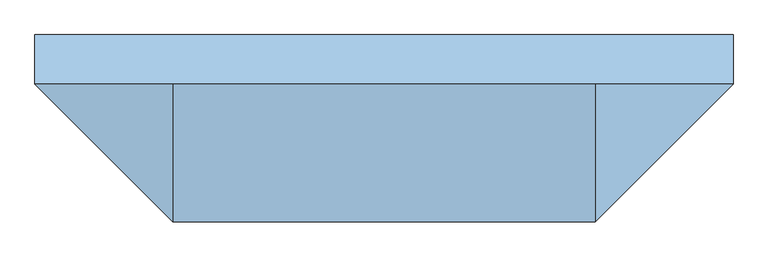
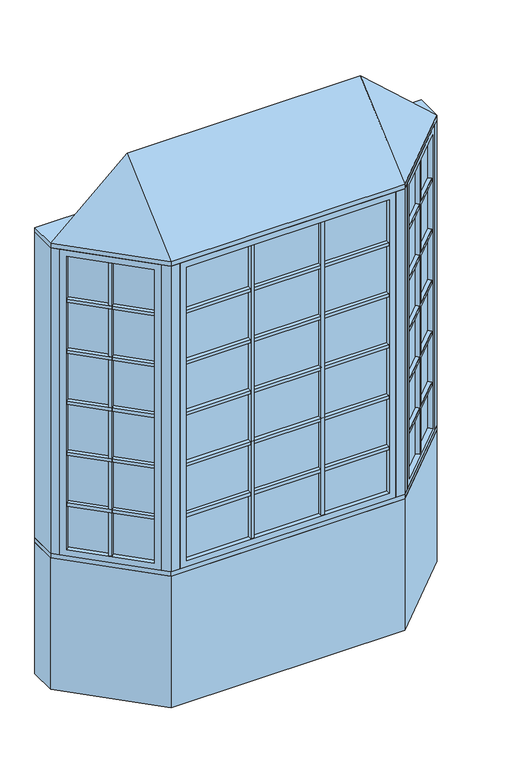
"""IFC4 building model written with IfcOpenShell, lengths in millimetres: window geometry, Pollard_Windows_Tudor Casement Bows and Bays : AML-BAY 45 AFR0618-10-500_GC."""

from ifc_helpers import new_model, si_unit, frame, origin, origin_with_axes, place, context, project, spatial, polyline, outline, extrude, faceted_brep, source, transform, mapped, element, save


def window_845785dd(model_context):
    return source(origin(), model_context, "Body", "SolidModel", [
        extrude(outline(polyline([(709.3614193, -437.1108753), (693.8050701, -421.5545261), (1001.616171, -113.7434252), (1017.1725202, -129.2997743), (709.3614193, -437.1108753)])), frame((0.0, 0.0, 1690.998), z_axis=(0.0, 0.0, 1.0), x_axis=(1.0, 0.0, 0.0)), (0.0, 0.0, 1.0), 18.0),
        extrude(outline(polyline([(690.2129677, -417.9624236), (674.6566185, -402.4060744), (982.4677194, -94.5949735), (998.0240686, -110.1513227), (690.2129677, -417.9624236)])), frame((0.0, 0.0, 1690.998), z_axis=(0.0, 0.0, 1.0), x_axis=(1.0, 0.0, 0.0)), (0.0, 0.0, 1.0), 18.0),
        extrude(outline(polyline([(709.3614193, -437.1108753), (693.8050701, -421.5545261), (1001.616171, -113.7434252), (1017.1725202, -129.2997743), (709.3614193, -437.1108753)])), frame((0.0, 0.0, 1090.998), z_axis=(0.0, 0.0, 1.0), x_axis=(1.0, 0.0, 0.0)), (0.0, 0.0, 1.0), 18.0),
        extrude(outline(polyline([(690.2129677, -417.9624236), (674.6566185, -402.4060744), (982.4677194, -94.5949735), (998.0240686, -110.1513227), (690.2129677, -417.9624236)])), frame((0.0, 0.0, 1090.998), z_axis=(0.0, 0.0, 1.0), x_axis=(1.0, 0.0, 0.0)), (0.0, 0.0, 1.0), 18.0),
        extrude(outline(polyline([(709.3614193, -437.1108753), (693.8050701, -421.5545261), (1001.616171, -113.7434252), (1017.1725202, -129.2997743), (709.3614193, -437.1108753)])), frame((0.0, 0.0, 1390.998), z_axis=(0.0, 0.0, 1.0), x_axis=(1.0, 0.0, 0.0)), (0.0, 0.0, 1.0), 18.0),
        extrude(outline(polyline([(690.2129677, -417.9624236), (674.6566185, -402.4060744), (982.4677194, -94.5949735), (998.0240686, -110.1513227), (690.2129677, -417.9624236)])), frame((0.0, 0.0, 1390.998), z_axis=(0.0, 0.0, 1.0), x_axis=(1.0, 0.0, 0.0)), (0.0, 0.0, 1.0), 18.0),
        extrude(outline(polyline([(709.3614193, -437.1108753), (693.8050701, -421.5545261), (1001.616171, -113.7434252), (1017.1725202, -129.2997743), (709.3614193, -437.1108753)])), frame((0.0, 0.0, 1990.998), z_axis=(0.0, 0.0, 1.0), x_axis=(1.0, 0.0, 0.0)), (0.0, 0.0, 1.0), 18.0),
        extrude(outline(polyline([(690.2129677, -417.9624236), (674.6566185, -402.4060744), (982.4677194, -94.5949735), (998.0240686, -110.1513227), (690.2129677, -417.9624236)])), frame((0.0, 0.0, 1990.998), z_axis=(0.0, 0.0, 1.0), x_axis=(1.0, 0.0, 0.0)), (0.0, 0.0, 1.0), 18.0),
        extrude(outline(polyline([(709.3614193, -437.1108753), (693.8050701, -421.5545261), (1001.616171, -113.7434252), (1017.1725202, -129.2997743), (709.3614193, -437.1108753)])), frame((0.0, 0.0, 2290.998), z_axis=(0.0, 0.0, 1.0), x_axis=(1.0, 0.0, 0.0)), (0.0, 0.0, 1.0), 18.0),
        extrude(outline(polyline([(690.2129677, -417.9624236), (674.6566185, -402.4060744), (982.4677194, -94.5949735), (998.0240686, -110.1513227), (690.2129677, -417.9624236)])), frame((0.0, 0.0, 2290.998), z_axis=(0.0, 0.0, 1.0), x_axis=(1.0, 0.0, 0.0)), (0.0, 0.0, 1.0), 18.0),
        extrude(outline(polyline([(854.0745816, -261.2850146), (869.6309308, -276.8413638), (856.9030087, -289.5692858), (841.3466595, -274.0129366), (854.0745816, -261.2850146)])), frame((0.0, 0.0, 835.8628), z_axis=(0.0, 0.0, 1.0), x_axis=(1.0, 0.0, 0.0)), (0.0, 0.0, 1.0), 1728.2704),
        extrude(outline(polyline([(850.4824791, -257.6929121), (837.7545571, -270.4208342), (822.1982079, -254.864485), (834.92613, -242.1365629), (850.4824791, -257.6929121)])), frame((0.0, 0.0, 835.8628), z_axis=(0.0, 0.0, 1.0), x_axis=(1.0, 0.0, 0.0)), (0.0, 0.0, 1.0), 1728.2704),
        extrude(outline(polyline([(1010.5964271, -104.763169), (684.824814, -430.5347822), (681.2327115, -426.9426797), (1007.0043247, -101.1710666), (1010.5964271, -104.763169)])), frame((0.0, 0.0, 823.1628), z_axis=(0.0, 0.0, 1.0), x_axis=(1.0, 0.0, 0.0)), (0.0, 0.0, 1.0), 1753.6704),
        faceted_brep([(1001.616171, -113.7434252, 835.8628), (1019.5766833, -131.7039374, 835.8628), (1019.5766833, -131.7039374, 2564.1332), (1001.616171, -113.7434252, 2564.1332), (1007.0043247, -101.1710666, 823.1628), (1010.5964271, -104.763169, 823.1628), (1010.5964271, -104.763169, 2576.8332), (1007.0043247, -101.1710666, 2576.8332), (980.0635563, -92.1908105, 835.8628), (998.0240686, -110.1513227, 835.8628), (998.0240686, -110.1513227, 2564.1332), (980.0635563, -92.1908105, 2564.1332), (1044.9369265, -106.3436941, 799.998), (1005.4237996, -66.8305672, 799.998), (1005.4237996, -66.8305672, 2599.998), (1044.9369265, -106.3436941, 2599.998), (711.7655823, -439.5150383, 2564.1332), (693.8050701, -421.5545261, 2564.1332), (684.824814, -430.5347822, 2576.8332), (681.2327115, -426.9426797, 2576.8332), (690.2129677, -417.9624236, 2564.1332), (672.2524554, -400.0019114, 2564.1332), (646.8922121, -425.3621547, 2599.998), (686.4053391, -464.8752816, 2599.998), (711.7655823, -439.5150383, 835.8628), (693.8050701, -421.5545261, 835.8628), (684.824814, -430.5347822, 823.1628), (681.2327115, -426.9426797, 823.1628), (690.2129677, -417.9624236, 835.8628), (672.2524554, -400.0019114, 835.8628), (646.8922121, -425.3621547, 799.998), (686.4053391, -464.8752816, 799.998)], [[[0, 1, 2, 3]], [[4, 5, 6, 7]], [[8, 9, 10, 11]], [[12, 13, 14, 15]], [[3, 2, 16, 17]], [[7, 6, 18, 19]], [[11, 10, 20, 21]], [[15, 14, 22, 23]], [[17, 16, 24, 25]], [[19, 18, 26, 27]], [[21, 20, 28, 29]], [[23, 22, 30, 31]], [[25, 24, 1, 0]], [[5, 26, 18, 6], [3, 17, 25, 0]], [[27, 26, 5, 4]], [[7, 19, 27, 4], [9, 28, 20, 10]], [[29, 28, 9, 8]], [[13, 30, 22, 14], [11, 21, 29, 8]], [[31, 30, 13, 12]], [[15, 23, 31, 12], [1, 24, 16, 2]]]),
        extrude(outline(polyline([(204.6285333, -474.8306207), (204.6285333, -496.8306207), (186.6285333, -496.8306207), (186.6285333, -474.8306207), (204.6285333, -474.8306207)])), frame((0.0, 0.0, 835.8628), z_axis=(0.0, 0.0, 1.0), x_axis=(1.0, 0.0, 0.0)), (0.0, 0.0, 1.0), 1728.2704),
        extrude(outline(polyline([(204.6285333, -469.7506207), (186.6285333, -469.7506207), (186.6285333, -447.7506207), (204.6285333, -447.7506207), (204.6285333, -469.7506207)])), frame((0.0, 0.0, 835.8628), z_axis=(0.0, 0.0, 1.0), x_axis=(1.0, 0.0, 0.0)), (0.0, 0.0, 1.0), 1728.2704),
        extrude(outline(polyline([(-186.6285333, -474.8306207), (-186.6285333, -496.8306207), (-204.6285333, -496.8306207), (-204.6285333, -474.8306207), (-186.6285333, -474.8306207)])), frame((0.0, 0.0, 835.8628), z_axis=(0.0, 0.0, 1.0), x_axis=(1.0, 0.0, 0.0)), (0.0, 0.0, 1.0), 1728.2704),
        extrude(outline(polyline([(-186.6285333, -469.7506207), (-204.6285333, -469.7506207), (-204.6285333, -447.7506207), (-186.6285333, -447.7506207), (-186.6285333, -469.7506207)])), frame((0.0, 0.0, 835.8628), z_axis=(0.0, 0.0, 1.0), x_axis=(1.0, 0.0, 0.0)), (0.0, 0.0, 1.0), 1728.2704),
        extrude(outline(polyline([(-565.1852, -496.8306207), (-565.1852, -474.8306207), (565.1852, -474.8306207), (565.1852, -496.8306207), (-565.1852, -496.8306207)])), frame((0.0, 0.0, 1090.998), z_axis=(0.0, 0.0, 1.0), x_axis=(1.0, 0.0, 0.0)), (0.0, 0.0, 1.0), 18.0),
        extrude(outline(polyline([(-565.1852, -469.7506207), (-565.1852, -447.7506207), (565.1852, -447.7506207), (565.1852, -469.7506207), (-565.1852, -469.7506207)])), frame((0.0, 0.0, 1090.998), z_axis=(0.0, 0.0, 1.0), x_axis=(1.0, 0.0, 0.0)), (0.0, 0.0, 1.0), 18.0),
        extrude(outline(polyline([(-565.1852, -496.8306207), (-565.1852, -474.8306207), (565.1852, -474.8306207), (565.1852, -496.8306207), (-565.1852, -496.8306207)])), frame((0.0, 0.0, 1390.998), z_axis=(0.0, 0.0, 1.0), x_axis=(1.0, 0.0, 0.0)), (0.0, 0.0, 1.0), 18.0),
        extrude(outline(polyline([(-565.1852, -469.7506207), (-565.1852, -447.7506207), (565.1852, -447.7506207), (565.1852, -469.7506207), (-565.1852, -469.7506207)])), frame((0.0, 0.0, 1390.998), z_axis=(0.0, 0.0, 1.0), x_axis=(1.0, 0.0, 0.0)), (0.0, 0.0, 1.0), 18.0),
        extrude(outline(polyline([(-565.1852, -496.8306207), (-565.1852, -474.8306207), (565.1852, -474.8306207), (565.1852, -496.8306207), (-565.1852, -496.8306207)])), frame((0.0, 0.0, 1690.998), z_axis=(0.0, 0.0, 1.0), x_axis=(1.0, 0.0, 0.0)), (0.0, 0.0, 1.0), 18.0),
        extrude(outline(polyline([(-565.1852, -469.7506207), (-565.1852, -447.7506207), (565.1852, -447.7506207), (565.1852, -469.7506207), (-565.1852, -469.7506207)])), frame((0.0, 0.0, 1690.998), z_axis=(0.0, 0.0, 1.0), x_axis=(1.0, 0.0, 0.0)), (0.0, 0.0, 1.0), 18.0),
        extrude(outline(polyline([(-565.1852, -496.8306207), (-565.1852, -474.8306207), (565.1852, -474.8306207), (565.1852, -496.8306207), (-565.1852, -496.8306207)])), frame((0.0, 0.0, 1990.998), z_axis=(0.0, 0.0, 1.0), x_axis=(1.0, 0.0, 0.0)), (0.0, 0.0, 1.0), 18.0),
        extrude(outline(polyline([(-565.1852, -469.7506207), (-565.1852, -447.7506207), (565.1852, -447.7506207), (565.1852, -469.7506207), (-565.1852, -469.7506207)])), frame((0.0, 0.0, 1990.998), z_axis=(0.0, 0.0, 1.0), x_axis=(1.0, 0.0, 0.0)), (0.0, 0.0, 1.0), 18.0),
        extrude(outline(polyline([(-1017.1725202, -129.2997743), (-1001.616171, -113.7434252), (-693.8050701, -421.5545261), (-709.3614193, -437.1108753), (-1017.1725202, -129.2997743)])), frame((0.0, 0.0, 1090.998), z_axis=(0.0, 0.0, 1.0), x_axis=(1.0, 0.0, 0.0)), (0.0, 0.0, 1.0), 18.0),
        extrude(outline(polyline([(-998.0240686, -110.1513227), (-982.4677194, -94.5949735), (-674.6566185, -402.4060744), (-690.2129677, -417.9624236), (-998.0240686, -110.1513227)])), frame((0.0, 0.0, 1090.998), z_axis=(0.0, 0.0, 1.0), x_axis=(1.0, 0.0, 0.0)), (0.0, 0.0, 1.0), 18.0),
        extrude(outline(polyline([(-1017.1725202, -129.2997743), (-1001.616171, -113.7434252), (-693.8050701, -421.5545261), (-709.3614193, -437.1108753), (-1017.1725202, -129.2997743)])), frame((0.0, 0.0, 1390.998), z_axis=(0.0, 0.0, 1.0), x_axis=(1.0, 0.0, 0.0)), (0.0, 0.0, 1.0), 18.0),
        extrude(outline(polyline([(-998.0240686, -110.1513227), (-982.4677194, -94.5949735), (-674.6566185, -402.4060744), (-690.2129677, -417.9624236), (-998.0240686, -110.1513227)])), frame((0.0, 0.0, 1390.998), z_axis=(0.0, 0.0, 1.0), x_axis=(1.0, 0.0, 0.0)), (0.0, 0.0, 1.0), 18.0),
        extrude(outline(polyline([(-1017.1725202, -129.2997743), (-1001.616171, -113.7434252), (-693.8050701, -421.5545261), (-709.3614193, -437.1108753), (-1017.1725202, -129.2997743)])), frame((0.0, 0.0, 1690.998), z_axis=(0.0, 0.0, 1.0), x_axis=(1.0, 0.0, 0.0)), (0.0, 0.0, 1.0), 18.0),
        extrude(outline(polyline([(-998.0240686, -110.1513227), (-982.4677194, -94.5949735), (-674.6566185, -402.4060744), (-690.2129677, -417.9624236), (-998.0240686, -110.1513227)])), frame((0.0, 0.0, 1690.998), z_axis=(0.0, 0.0, 1.0), x_axis=(1.0, 0.0, 0.0)), (0.0, 0.0, 1.0), 18.0),
        extrude(outline(polyline([(-1017.1725202, -129.2997743), (-1001.616171, -113.7434252), (-693.8050701, -421.5545261), (-709.3614193, -437.1108753), (-1017.1725202, -129.2997743)])), frame((0.0, 0.0, 1990.998), z_axis=(0.0, 0.0, 1.0), x_axis=(1.0, 0.0, 0.0)), (0.0, 0.0, 1.0), 18.0),
        extrude(outline(polyline([(-998.0240686, -110.1513227), (-982.4677194, -94.5949735), (-674.6566185, -402.4060744), (-690.2129677, -417.9624236), (-998.0240686, -110.1513227)])), frame((0.0, 0.0, 1990.998), z_axis=(0.0, 0.0, 1.0), x_axis=(1.0, 0.0, 0.0)), (0.0, 0.0, 1.0), 18.0),
        extrude(outline(polyline([(-1017.1725202, -129.2997743), (-1001.616171, -113.7434252), (-693.8050701, -421.5545261), (-709.3614193, -437.1108753), (-1017.1725202, -129.2997743)])), frame((0.0, 0.0, 2290.998), z_axis=(0.0, 0.0, 1.0), x_axis=(1.0, 0.0, 0.0)), (0.0, 0.0, 1.0), 18.0),
        extrude(outline(polyline([(-998.0240686, -110.1513227), (-982.4677194, -94.5949735), (-674.6566185, -402.4060744), (-690.2129677, -417.9624236), (-998.0240686, -110.1513227)])), frame((0.0, 0.0, 2290.998), z_axis=(0.0, 0.0, 1.0), x_axis=(1.0, 0.0, 0.0)), (0.0, 0.0, 1.0), 18.0),
        extrude(outline(polyline([(-565.1852, -496.8306207), (-565.1852, -474.8306207), (565.1852, -474.8306207), (565.1852, -496.8306207), (-565.1852, -496.8306207)])), frame((0.0, 0.0, 2290.998), z_axis=(0.0, 0.0, 1.0), x_axis=(1.0, 0.0, 0.0)), (0.0, 0.0, 1.0), 18.0),
        extrude(outline(polyline([(-565.1852, -469.7506207), (-565.1852, -447.7506207), (565.1852, -447.7506207), (565.1852, -469.7506207), (-565.1852, -469.7506207)])), frame((0.0, 0.0, 2290.998), z_axis=(0.0, 0.0, 1.0), x_axis=(1.0, 0.0, 0.0)), (0.0, 0.0, 1.0), 18.0),
        extrude(outline(polyline([(-841.3466595, -274.0129366), (-856.9030087, -289.5692858), (-869.6309308, -276.8413638), (-854.0745816, -261.2850146), (-841.3466595, -274.0129366)])), frame((0.0, 0.0, 835.8628), z_axis=(0.0, 0.0, 1.0), x_axis=(1.0, 0.0, 0.0)), (0.0, 0.0, 1.0), 1728.2704),
        extrude(outline(polyline([(-837.7545571, -270.4208342), (-850.4824791, -257.6929121), (-834.92613, -242.1365629), (-822.1982079, -254.864485), (-837.7545571, -270.4208342)])), frame((0.0, 0.0, 835.8628), z_axis=(0.0, 0.0, 1.0), x_axis=(1.0, 0.0, 0.0)), (0.0, 0.0, 1.0), 1728.2704),
        extrude(outline(polyline([(-684.824814, -430.5347822), (-1010.5964271, -104.763169), (-1007.0043247, -101.1710666), (-681.2327115, -426.9426797), (-684.824814, -430.5347822)])), frame((0.0, 0.0, 823.1628), z_axis=(0.0, 0.0, 1.0), x_axis=(1.0, 0.0, 0.0)), (0.0, 0.0, 1.0), 1753.6704),
        faceted_brep([(-690.2129677, -417.9624236, 2564.1332), (-672.2524554, -400.0019114, 2564.1332), (-672.2524554, -400.0019114, 835.8628), (-690.2129677, -417.9624236, 835.8628), (-684.824814, -430.5347822, 2576.8332), (-681.2327115, -426.9426797, 2576.8332), (-681.2327115, -426.9426797, 823.1628), (-684.824814, -430.5347822, 823.1628), (-711.7655823, -439.5150383, 2564.1332), (-693.8050701, -421.5545261, 2564.1332), (-693.8050701, -421.5545261, 835.8628), (-711.7655823, -439.5150383, 835.8628), (-646.8922121, -425.3621547, 2599.998), (-686.4053391, -464.8752816, 2599.998), (-686.4053391, -464.8752816, 799.998), (-646.8922121, -425.3621547, 799.998), (-980.0635563, -92.1908105, 835.8628), (-998.0240686, -110.1513227, 835.8628), (-1007.0043247, -101.1710666, 823.1628), (-1010.5964271, -104.763169, 823.1628), (-1001.616171, -113.7434252, 835.8628), (-1019.5766833, -131.7039374, 835.8628), (-1044.9369265, -106.3436941, 799.998), (-1005.4237996, -66.8305672, 799.998), (-980.0635563, -92.1908105, 2564.1332), (-998.0240686, -110.1513227, 2564.1332), (-1007.0043247, -101.1710666, 2576.8332), (-1010.5964271, -104.763169, 2576.8332), (-1001.616171, -113.7434252, 2564.1332), (-1019.5766833, -131.7039374, 2564.1332), (-1044.9369265, -106.3436941, 2599.998), (-1005.4237996, -66.8305672, 2599.998)], [[[0, 1, 2, 3]], [[4, 5, 6, 7]], [[8, 9, 10, 11]], [[12, 13, 14, 15]], [[3, 2, 16, 17]], [[7, 6, 18, 19]], [[11, 10, 20, 21]], [[15, 14, 22, 23]], [[17, 16, 24, 25]], [[19, 18, 26, 27]], [[21, 20, 28, 29]], [[23, 22, 30, 31]], [[15, 23, 31, 12], [1, 24, 16, 2]], [[25, 24, 1, 0]], [[5, 26, 18, 6], [3, 17, 25, 0]], [[27, 26, 5, 4]], [[7, 19, 27, 4], [9, 28, 20, 10]], [[29, 28, 9, 8]], [[13, 30, 22, 14], [11, 21, 29, 8]], [[31, 30, 13, 12]]]),
        extrude(outline(polyline([(577.8852, -474.8306207), (-577.8852, -474.8306207), (-577.8852, -469.7506207), (577.8852, -469.7506207), (577.8852, -474.8306207)])), frame((0.0, 0.0, 823.1628), z_axis=(0.0, 0.0, 1.0), x_axis=(1.0, 0.0, 0.0)), (0.0, 0.0, 1.0), 1753.6704),
        faceted_brep([(565.1852, -474.8306207, 835.8628), (565.1852, -500.2306207, 835.8628), (565.1852, -500.2306207, 2564.1332), (565.1852, -474.8306207, 2564.1332), (577.8852, -469.7506207, 823.1628), (577.8852, -474.8306207, 823.1628), (577.8852, -474.8306207, 2576.8332), (577.8852, -469.7506207, 2576.8332), (565.1852, -444.3506207, 835.8628), (565.1852, -469.7506207, 835.8628), (565.1852, -469.7506207, 2564.1332), (565.1852, -444.3506207, 2564.1332), (601.05, -500.2306207, 799.998), (601.05, -444.3506207, 799.998), (601.05, -444.3506207, 2599.998), (601.05, -500.2306207, 2599.998), (-565.1852, -500.2306207, 2564.1332), (-565.1852, -474.8306207, 2564.1332), (-577.8852, -474.8306207, 2576.8332), (-577.8852, -469.7506207, 2576.8332), (-565.1852, -469.7506207, 2564.1332), (-565.1852, -444.3506207, 2564.1332), (-601.05, -444.3506207, 2599.998), (-601.05, -500.2306207, 2599.998), (-565.1852, -500.2306207, 835.8628), (-565.1852, -474.8306207, 835.8628), (-577.8852, -474.8306207, 823.1628), (-577.8852, -469.7506207, 823.1628), (-565.1852, -469.7506207, 835.8628), (-565.1852, -444.3506207, 835.8628), (-601.05, -444.3506207, 799.998), (-601.05, -500.2306207, 799.998)], [[[0, 1, 2, 3]], [[4, 5, 6, 7]], [[8, 9, 10, 11]], [[12, 13, 14, 15]], [[3, 2, 16, 17]], [[7, 6, 18, 19]], [[11, 10, 20, 21]], [[15, 14, 22, 23]], [[17, 16, 24, 25]], [[19, 18, 26, 27]], [[21, 20, 28, 29]], [[23, 22, 30, 31]], [[15, 23, 31, 12], [1, 24, 16, 2]], [[25, 24, 1, 0]], [[5, 26, 18, 6], [3, 17, 25, 0]], [[27, 26, 5, 4]], [[7, 19, 27, 4], [9, 28, 20, 10]], [[29, 28, 9, 8]], [[13, 30, 22, 14], [11, 21, 29, 8]], [[31, 30, 13, 12]]]),
        faceted_brep([(1076.5, -74.7806207, 2625.398), (651.05, -500.2306207, 2625.398), (-651.05, -500.2306207, 2625.398), (-1076.5, -74.7806207, 2625.398), (-651.05, -74.7806207, 3006.398), (651.05, -74.7806207, 3006.398)], [[[0, 1, 2, 3]], [[3, 2, 4]], [[2, 1, 5, 4]], [[1, 0, 5]], [[0, 3, 4, 5]]]),
        extrude(outline(polyline([(-1076.5, 77.6193793), (1076.5, 77.6193793), (1076.5, -74.7806207), (651.05, -500.2306207), (-651.05, -500.2306207), (-1076.5, -74.7806207), (-1076.5, 77.6193793)])), frame((0.0, 0.0, 2599.998), z_axis=(0.0, 0.0, 1.0), x_axis=(1.0, 0.0, 0.0)), (0.0, 0.0, 1.0), 25.4),
        extrude(outline(polyline([(-1076.5, -74.7806207), (-1076.5, 77.6193793), (-1013.3738531, 77.6193793), (-1013.3738531, -74.7806207), (-1044.9369265, -106.3436941), (-1076.5, -74.7806207)])), frame((0.0, 0.0, 799.998), z_axis=(0.0, 0.0, 1.0), x_axis=(1.0, 0.0, 0.0)), (0.0, 0.0, 1.0), 1800.0),
        extrude(outline(polyline([(1076.5, 77.6193793), (1076.5, -74.7806207), (1044.9369265, -106.3436941), (1013.3738531, -74.7806207), (1013.3738531, 77.6193793), (1076.5, 77.6193793)])), frame((0.0, 0.0, 799.998), z_axis=(0.0, 0.0, 1.0), x_axis=(1.0, 0.0, 0.0)), (0.0, 0.0, 1.0), 1800.0),
        extrude(outline(polyline([(651.05, -500.2306207), (601.05, -500.2306207), (601.05, -450.2306207), (630.3393219, -450.2306207), (651.05, -429.5199425), (686.4053391, -464.8752816), (651.05, -500.2306207)])), frame((0.0, 0.0, 799.998), z_axis=(0.0, 0.0, 1.0), x_axis=(1.0, 0.0, 0.0)), (0.0, 0.0, 1.0), 1800.0),
        extrude(outline(polyline([(-651.05, -500.2306207), (-686.4053391, -464.8752816), (-651.05, -429.5199425), (-630.3393219, -450.2306207), (-601.05, -450.2306207), (-601.05, -500.2306207), (-651.05, -500.2306207)])), frame((0.0, 0.0, 799.998), z_axis=(0.0, 0.0, 1.0), x_axis=(1.0, 0.0, 0.0)), (0.0, 0.0, 1.0), 1800.0),
        extrude(outline(polyline([(-651.05, -500.2306207), (-1076.5, -74.7806207), (-1076.5, 77.6193793), (-1013.3738531, 77.6193793), (-587.9238531, -347.8306207), (587.9238531, -347.8306207), (1013.3738531, 77.6193793), (1076.5, 77.6193793), (1076.5, -74.7806207), (651.05, -500.2306207), (-651.05, -500.2306207)])), frame((0.0, 0.0, 774.598), z_axis=(0.0, 0.0, 1.0), x_axis=(1.0, 0.0, 0.0)), (0.0, 0.0, 1.0), 25.4),
        extrude(outline(polyline([(-1076.5, -74.7806207), (-1076.5, 77.6193793), (-1013.3738531, 77.6193793), (-587.9238531, -347.8306207), (587.9238531, -347.8306207), (1013.3738531, 77.6193793), (1076.5, 77.6193793), (1076.5, -74.7806207), (651.05, -500.2306207), (-651.05, -500.2306207), (-1076.5, -74.7806207)])), origin_with_axes(), (0.0, 0.0, 1.0), 774.598),
    ])


if __name__ == "__main__":
    model = new_model("IFC4")
    model_context = context("Model", 3, world=origin())
    ifc_project = project(units=[si_unit("LENGTHUNIT", "METRE", prefix="MILLI")], contexts=[model_context])
    site = spatial("IfcSite", under=ifc_project)
    building = spatial("IfcBuilding", under=site)
    placement = place(None, origin())
    window_shape = window_845785dd(model_context)
    element("IfcWindow", 1, ObjectType="Pollard_Windows_Tudor Casement Bows and Bays : AML-BAY 45 AFR0618-10-500_GC", at=placement, inside=building, context=model_context, shape_type="MappedRepresentation", body=[
        mapped(window_shape, transform((0.0, 0.0, 0.0), x_axis=(1.0, 0.0, 0.0), y_axis=(0.0, 1.0, 0.0), z_axis=(0.0, 0.0, 1.0))),
    ])
    save(model, "model.ifc")
